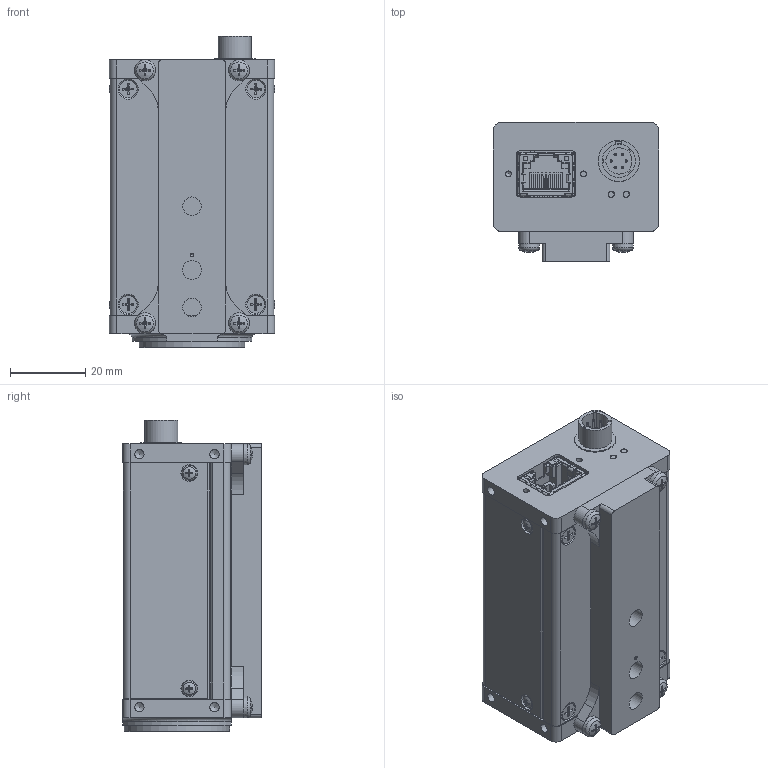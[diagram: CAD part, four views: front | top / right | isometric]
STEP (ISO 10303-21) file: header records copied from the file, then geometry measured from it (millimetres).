
FILE_DESCRIPTION(/* description */ ('205-16-30-00-00'),/* implementation_level */ '2;1');
FILE_NAME(/* name */ 'D:\HiDrive\1_Konstruktion\1_KUNDEN\TIS\205-16_12 MP-Camera (Sensor 23x20)\205-16-3_Cam.44x29-Sens.23x20-12MP-RJ45\KundenStepModell (KSM)\KSM_205-16-30_Cam.44x29_GigE3L-RJ45_CS-FP_13,3_ER-6,7.stp',/* time_stamp */ '2021-07-19T18:16:06+02:00',/* author */ ('Westermann'),/* organization */ ('TIS, Bremen-Germany'),/* preprocessor_version */ 'ST-DEVELOPER v18.1',/* originating_system */ 'Autodesk Inventor 2021',/* authorisation */ '');
FILE_SCHEMA (('AUTOMOTIVE_DESIGN { 1 0 10303 214 3 1 1 }'));
Length unit declared in the file: millimetre
Products named in the file (4): KSM_205-16-30_Cam.44x29_GigE3L-RJ45_CS-FP_13,3_ER-6,7; 205-16-30_Cam.44x29_GigE3L-RJ45_CS-FP_13,3_ER-6,7; 205-16-3-00-04_TripodAdapter; ISO 7045 - M3 x 6 - 4.8 - H
Assembly tree (6 placements, depth 2):
  KSM_205-16-30_Cam.44x29_GigE3L-RJ45_CS-FP_13,3_ER-6,7
    205-16-30_Cam.44x29_GigE3L-RJ45_CS-FP_13,3_ER-6,7
    205-16-3-00-04_TripodAdapter
    ISO 7045 - M3 x 6 - 4.8 - H  x4
Bounding box: 44.07 x 37 x 83.05 mm (x, y, z)
Volume: 48647.4 mm3; surface area: 36618.2 mm2
Topology: 6 solids, 16 shells, 1420 faces, 3854 edges, 2517 vertices
Faces by surface type: plane 761, cylinder 365, cone 200, torus 74, sphere 12, bspline 8
Full cylindrical faces by diameter (mm): 0.6 x6, 0.8 x6, 0.838 x2, 1 x1, 1.221 x4, 1.567 x10, 1.626 x2, 1.7 x2, 1.783 x4, 1.8 x2, 2 x4, 2.013 x4, 2.224 x4, 2.3 x4, 2.459 x16, 2.7 x4, 2.729 x4, 3 x4, 3.3 x4, 4 x4, 4.5 x4, 4.7 x4, 4.917 x2, 4.978 x1, 8 x1, 8.85 x1, 11 x1, 15 x1, 21.9 x1, 22 x5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
Entity records: 48186 total; most frequent: CARTESIAN_POINT 12990, ORIENTED_EDGE 7134, DIRECTION 6936, EDGE_CURVE 3567, AXIS2_PLACEMENT_3D 2378, VERTEX_POINT 2355, LINE 2180, VECTOR 2180
